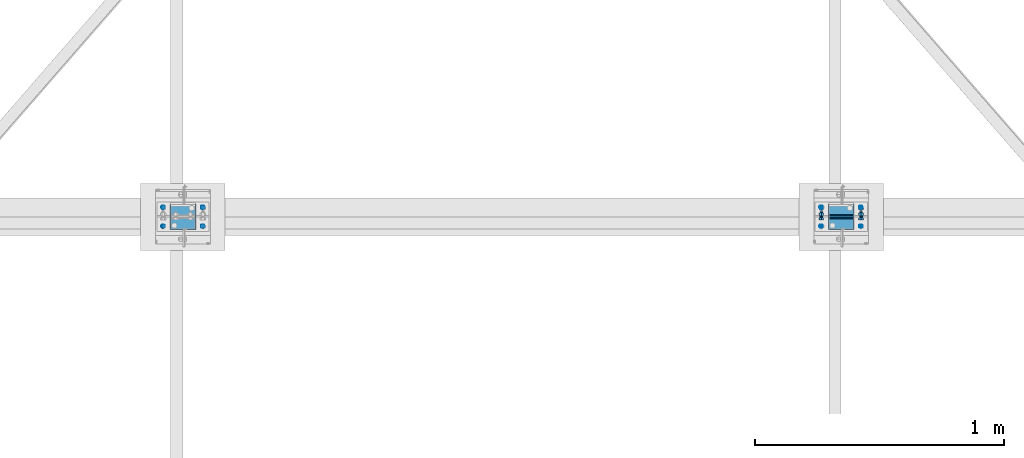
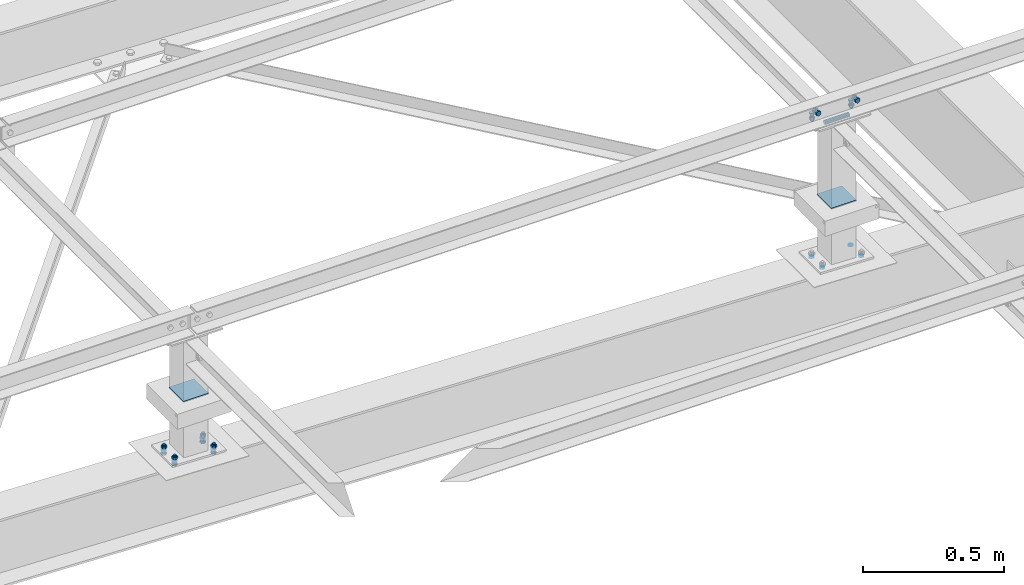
# One storey, part 85 of 3134: 8 mechanical fasteners, 5 elements without a shape of their own.
"""IFC2X3 building model written with IfcOpenShell, lengths in millimetres."""

import ifcopenshell
import ifcopenshell.guid

model = None  # the IFC model being written
_history = None  # IfcOwnerHistory: only IFC2X3 demands one
_inside = {}  # id of a spatial element -> (the spatial element, [elements in it])
_under = {}  # id of a project, library or spatial element -> (it, [spatial elements below it])
_declared = {}  # id of a project -> (the project, [libraries it declares])
_typed = {}  # id of a type object -> (the type object, [elements of that type])
_made_of = {}  # id of a material, layer set ... -> (it, [elements and type objects made of it])


def new_model(schema):
    """Start an empty IFC model of exactly this schema.

    Asked for "IFC4X3", IfcOpenShell would pick the latest addendum, in which some entities
    have other attributes; the version numbers below select the first issue.
    IFC2X3 requires an IfcOwnerHistory on every rooted entity: one is made here for all.
    """
    global model, _history
    if schema == "IFC4X3":
        model = ifcopenshell.file(schema_version=(4, 3, 0, 0))
    else:
        model = ifcopenshell.file(schema=schema)
    _inside.clear()
    _under.clear()
    _declared.clear()
    _typed.clear()
    _made_of.clear()
    _history = None
    if model.schema == "IFC2X3":
        org = make("IfcOrganization", Name="unknown")
        user = make(
            "IfcPersonAndOrganization",
            ThePerson=make("IfcPerson", FamilyName="unknown"),
            TheOrganization=org,
        )
        app = make(
            "IfcApplication",
            ApplicationDeveloper=org,
            Version="unknown",
            ApplicationFullName="unknown",
            ApplicationIdentifier="unknown",
        )
        _history = make(
            "IfcOwnerHistory",
            OwningUser=user,
            OwningApplication=app,
            ChangeAction="ADDED",
            CreationDate=0,
        )
    return model


def make(cls, **values):
    """One entity of the class cls with the attributes given. An attribute that is None is left unset."""
    return model.create_entity(
        cls, **{name: value for name, value in values.items() if value is not None}
    )


def rooted(cls, **values):
    """An entity with a GlobalId (a new one), such as an element, a storey or a relation."""
    return make(cls, GlobalId=ifcopenshell.guid.new(), OwnerHistory=_history, **values)


def si_unit(unit_type, name, prefix=None):
    """IfcSIUnit, for example si_unit("LENGTHUNIT", "METRE", prefix="MILLI")."""
    return make("IfcSIUnit", UnitType=unit_type, Prefix=prefix, Name=name)


def assignment(units):
    """IfcUnitAssignment: the units of a project."""
    return None if units is None else make("IfcUnitAssignment", Units=units)


def point(xyz):
    """IfcCartesianPoint."""
    return None if xyz is None else make("IfcCartesianPoint", Coordinates=xyz)


def direction(xyz):
    """IfcDirection."""
    return None if xyz is None else make("IfcDirection", DirectionRatios=xyz)


def frame(location, z_axis=None, x_axis=None):
    """IfcAxis2Placement3D, a coordinate frame: its origin and axes. An axis left out is left unset."""
    return make(
        "IfcAxis2Placement3D",
        Location=point(location),
        Axis=direction(z_axis),
        RefDirection=direction(x_axis),
    )


def origin_with_axes():
    """The frame at (0, 0, 0) with the z axis (0, 0, 1) and the x axis (1, 0, 0) written out."""
    return frame((0.0, 0.0, 0.0), z_axis=(0.0, 0.0, 1.0), x_axis=(1.0, 0.0, 0.0))


def place(relative_to, where):
    """IfcLocalPlacement: puts the frame where relative to a parent placement (None: the world)."""
    return make(
        "IfcLocalPlacement", PlacementRelTo=relative_to, RelativePlacement=where
    )


def context(
    kind, dimensions, precision=None, world=None, true_north=None, identifier=None
):
    """IfcGeometricRepresentationContext, for example the 3D "Model" context."""
    return make(
        "IfcGeometricRepresentationContext",
        ContextIdentifier=identifier,
        ContextType=kind,
        CoordinateSpaceDimension=dimensions,
        Precision=precision,
        WorldCoordinateSystem=world,
        TrueNorth=true_north,
    )


def subcontext(parent, identifier, kind, view, scale=None):
    """IfcGeometricRepresentationSubContext, for example "Body" below "Model"."""
    return make(
        "IfcGeometricRepresentationSubContext",
        ContextIdentifier=identifier,
        ContextType=kind,
        ParentContext=parent,
        TargetScale=scale,
        TargetView=view,
    )


def project(units=None, contexts=None):
    """IfcProject with its units and contexts."""
    return rooted(
        "IfcProject",
        Name="project",
        RepresentationContexts=contexts,
        UnitsInContext=assignment(units),
    )


def spatial(cls, under=None, at=None, **own):
    """A site, building, storey or space (cls), placed at a placement, below another one or the project."""
    s = rooted(cls, ObjectPlacement=at, **own)
    if under is not None:
        _under.setdefault(under.id(), (under, []))[1].append(s)
    return s


def faces_of(points, faces, orient=None, outer=None):
    """IfcFace entities. A face is a list of loops; a loop is a list of indices into points, from 0.

    orient and outer hold one flag for each loop. By default every Orientation is true, the
    first loop of a face is its IfcFaceOuterBound and the others are IfcFaceBound.
    """
    made = []
    for i, loops in enumerate(faces):
        bounds = []
        for j, loop in enumerate(loops):
            is_outer = j == 0 if outer is None else outer[i][j]
            bounds.append(
                make(
                    "IfcFaceOuterBound" if is_outer else "IfcFaceBound",
                    Bound=make("IfcPolyLoop", Polygon=[points[k] for k in loop]),
                    Orientation=True if orient is None else orient[i][j],
                )
            )
        made.append(make("IfcFace", Bounds=bounds))
    return made


def faceted_brep(points, faces, orient=None, outer=None, voids=None):
    """IfcFacetedBrep: a solid bounded by flat faces; with voids (closed shells), ...WithVoids."""
    shared = [point(p) for p in points]
    hull = make("IfcClosedShell", CfsFaces=faces_of(shared, faces, orient, outer))
    if voids is None:
        return make("IfcFacetedBrep", Outer=hull)
    return make(
        "IfcFacetedBrepWithVoids",
        Outer=hull,
        Voids=[
            make(cls, CfsFaces=faces_of(shared, fs, o, b)) for cls, fs, o, b in voids
        ],
    )


def shape(context_of_items, identifier, shape_type, items):
    """IfcShapeRepresentation: the items that make up one representation, for example the "Body"."""
    return make(
        "IfcShapeRepresentation",
        ContextOfItems=context_of_items,
        RepresentationIdentifier=identifier,
        RepresentationType=shape_type,
        Items=items,
    )


def source(mapping_origin, context_of_items, identifier, shape_type, items):
    """IfcRepresentationMap: a shape defined once, which mapped items show again and again."""
    return make(
        "IfcRepresentationMap",
        MappingOrigin=mapping_origin,
        MappedRepresentation=shape(context_of_items, identifier, shape_type, items),
    )


def transform(
    local_origin,
    x_axis=None,
    y_axis=None,
    z_axis=None,
    scale=None,
    scale2=None,
    scale3=None,
    uniform=True,
):
    """IfcCartesianTransformationOperator3D, or its non-uniform kind. x_axis, y_axis, z_axis: its Axis1, 2, 3."""
    if uniform:
        return make(
            "IfcCartesianTransformationOperator3D",
            Axis1=direction(x_axis),
            Axis2=direction(y_axis),
            LocalOrigin=point(local_origin),
            Scale=scale,
            Axis3=direction(z_axis),
        )
    return make(
        "IfcCartesianTransformationOperator3DnonUniform",
        Axis1=direction(x_axis),
        Axis2=direction(y_axis),
        LocalOrigin=point(local_origin),
        Scale=scale,
        Axis3=direction(z_axis),
        Scale2=scale2,
        Scale3=scale3,
    )


def mapped(mapping_source, mapping_target):
    """IfcMappedItem: shows the shape of a source again, moved by a transform."""
    return make(
        "IfcMappedItem", MappingSource=mapping_source, MappingTarget=mapping_target
    )


def material(Name=None, Category=None):
    """IfcMaterial."""
    return make("IfcMaterial", Name=Name, Category=Category)


def made_of(thing, what):
    """Note that an element or type object is made of a material, layer set ...; save() writes the relation."""
    if what is not None:
        _made_of.setdefault(what.id(), (what, []))[1].append(thing)
    return thing


def type_object(cls, material=None, **own):
    """A type object (cls), such as IfcWallType, which elements share."""
    return made_of(rooted(cls, **own), material)


def element(
    cls,
    number,
    at=None,
    inside=None,
    cuts=None,
    type_object=None,
    material=None,
    context=None,
    identifier="Body",
    shape_type=None,
    held_by="IfcProductDefinitionShape",
    body=None,
    shapes=None,
    **own,
):
    """One element of the class cls, such as IfcWall. Its Tag is "e" and its number.

    at: its placement. inside: the storey or other place that contains it. cuts: it is an
    opening in that element (IfcRelVoidsElement). A single representation is given by context,
    identifier, shape_type and body (its items); several are given by shapes. held_by: the class
    of the entity that holds the representations. save() writes the other relations.
    """
    e = rooted(cls, Tag="e%d" % number, ObjectPlacement=at, **own)
    if body is not None:
        shapes = [shape(context, identifier, shape_type, body)]
    if shapes is not None:
        e.Representation = make(held_by, Representations=shapes)
    if inside is not None:
        _inside.setdefault(inside.id(), (inside, []))[1].append(e)
    if cuts is not None:
        rooted(
            "IfcRelVoidsElement", RelatingBuildingElement=cuts, RelatedOpeningElement=e
        )
    if type_object is not None:
        _typed.setdefault(type_object.id(), (type_object, []))[1].append(e)
    return made_of(e, material)


def aggregate(whole, parts):
    """IfcRelAggregates: a whole, such as a stair, and the parts it consists of."""
    return rooted("IfcRelAggregates", RelatingObject=whole, RelatedObjects=parts)


def save(model, path):
    """Write the relations noted so far, then the file.

    IfcRelAggregates (storeys below a building ...), IfcRelContainedInSpatialStructure (elements
    in a storey), IfcRelDefinesByType, IfcRelAssociatesMaterial and IfcRelDeclares: one each for
    every whole, place, type object, material and project.
    """
    for whole, parts in _under.values():
        aggregate(whole, parts)
    for where, things in _inside.values():
        rooted(
            "IfcRelContainedInSpatialStructure",
            RelatedElements=things,
            RelatingStructure=where,
        )
    for kind, things in _typed.values():
        rooted("IfcRelDefinesByType", RelatedObjects=things, RelatingType=kind)
    for what, things in _made_of.values():
        rooted("IfcRelAssociatesMaterial", RelatedObjects=things, RelatingMaterial=what)
    for by, libraries in _declared.values():
        rooted("IfcRelDeclares", RelatingContext=by, RelatedDefinitions=libraries)
    model.write(path)


model = new_model("IFC2X3")

# Units and contexts
model_context = context("Model", 3, precision=1e-05, world=origin_with_axes())
body_context = subcontext(model_context, "Body", "Model", "MODEL_VIEW")
ifc_project = project(units=[si_unit("LENGTHUNIT", "METRE", prefix="MILLI"), si_unit("AREAUNIT", "SQUARE_METRE"), si_unit("VOLUMEUNIT", "CUBIC_METRE"), si_unit("MASSUNIT", "GRAM", prefix="KILO"), si_unit("TIMEUNIT", "SECOND"), si_unit("PLANEANGLEUNIT", "RADIAN"), si_unit("SOLIDANGLEUNIT", "STERADIAN"), si_unit("THERMODYNAMICTEMPERATUREUNIT", "DEGREE_CELSIUS"), si_unit("LUMINOUSINTENSITYUNIT", "LUMEN")], contexts=[model_context])

# Site, building, storey
site_placement = place(None, origin_with_axes())
site = spatial("IfcSite", under=ifc_project, at=site_placement, CompositionType="ELEMENT")
building_placement = place(site_placement, origin_with_axes())
building = spatial("IfcBuilding", under=site, at=building_placement, Name="Undefined", CompositionType="ELEMENT")
storey_placement = place(building_placement, origin_with_axes())
storey = spatial("IfcBuildingStorey", under=building, at=storey_placement, Name="Undefined", CompositionType="ELEMENT", Elevation=0.0)

# Assembly, mechanical fastener
assembly_1_placement = place(storey_placement, origin_with_axes())
assembly_1 = element("IfcElementAssembly", 1, at=assembly_1_placement, inside=storey, AssemblyPlace="NOTDEFINED", PredefinedType="RIGID_FRAME")
ifc_material_1 = material(Name="8.8")
mechanical_fastener_type = type_object("IfcMechanicalFastenerType", Name="Bolt assembly")
shared_shape_1 = source(origin_with_axes(), body_context, "Body", "Brep", [
    faceted_brep([(10.9696551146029, -14.0, 0.0), (5.48482755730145, -14.0, 9.5), (-5.48482755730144, -14.0, 9.5), (-10.9696551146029, -14.0, 1.34339530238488e-15), (-5.48482755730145, -14.0, -9.5), (5.48482755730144, -14.0, -9.50000000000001), (5.48482755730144, -6.0, -9.50000000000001), (-5.48482755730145, -6.0, -9.5), (-10.9696551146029, -6.0, 1.34339530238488e-15), (-5.48482755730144, -6.0, 9.5), (5.48482755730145, -6.0, 9.5), (10.9696551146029, -6.0, 0.0), (6.0, -6.0, 0.0), (5.19615242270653, -6.0, 3.00000000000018), (2.99999999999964, -6.0, 5.19615242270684), (-6.21801588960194e-13, -6.0, 6.0), (-3.00000000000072, -6.0, 5.19615242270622), (-5.19615242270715, -6.0, 2.9999999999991), (-6.0, -6.0, -1.24360317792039e-12), (-5.19615242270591, -6.0, -3.00000000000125), (-2.99999999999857, -6.0, -5.19615242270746), (1.85874342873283e-12, -6.0, -6.0), (3.00000000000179, -6.0, -5.1961524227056), (5.19615242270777, -6.0, -2.99999999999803), (5.19615242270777, 24.0, -2.99999999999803), (3.00000000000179, 24.0, -5.1961524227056), (1.85874342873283e-12, 24.0, -6.0), (-2.99999999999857, 24.0, -5.19615242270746), (-5.19615242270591, 24.0, -3.00000000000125), (-6.0, 24.0, -1.24360317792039e-12), (-5.19615242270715, 24.0, 2.9999999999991), (-3.00000000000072, 24.0, 5.19615242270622), (-6.21801588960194e-13, 24.0, 6.0), (2.99999999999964, 24.0, 5.19615242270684), (5.19615242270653, 24.0, 3.00000000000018), (6.0, 24.0, 0.0), (10.9696551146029, 6.00000000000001, 0.0), (5.48482755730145, 6.00000000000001, 9.5), (-5.48482755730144, 6.00000000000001, 9.5), (-10.9696551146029, 6.00000000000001, 1.34339530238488e-15), (-5.48482755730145, 6.00000000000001, -9.5), (5.48482755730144, 6.00000000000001, -9.50000000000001), (5.48482755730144, 16.0, -9.50000000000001), (-5.48482755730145, 16.0, -9.5), (-10.9696551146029, 16.0, 1.34339530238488e-15), (-5.48482755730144, 16.0, 9.5), (5.48482755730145, 16.0, 9.5), (10.9696551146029, 16.0, 0.0)], [[[0, 1, 2, 3, 4, 5]], [[6, 7, 8, 9, 10, 11]], [[0, 11, 10, 1]], [[1, 10, 9, 2]], [[2, 9, 8, 3]], [[3, 8, 7, 4]], [[4, 7, 6, 5]], [[5, 6, 11, 0]], [[12, 13, 14, 15, 16, 17, 18, 19, 20, 21, 22, 23]], [[24, 25, 26, 27, 28, 29, 30, 31, 32, 33, 34, 35]], [[12, 35, 34, 13]], [[13, 34, 33, 14]], [[14, 33, 32, 15]], [[15, 32, 31, 16]], [[16, 31, 30, 17]], [[17, 30, 29, 18]], [[18, 29, 28, 19]], [[19, 28, 27, 20]], [[20, 27, 26, 21]], [[21, 26, 25, 22]], [[22, 25, 24, 23]], [[23, 24, 35, 12]], [[36, 37, 38, 39, 40, 41]], [[42, 43, 44, 45, 46, 47]], [[36, 47, 46, 37]], [[37, 46, 45, 38]], [[38, 45, 44, 39]], [[39, 44, 43, 40]], [[40, 43, 42, 41]], [[41, 42, 47, 36]]]),
    faceted_brep([(7.0, -0.1, 0.0), (6.06217782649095, -0.1, 3.50000000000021), (3.49999999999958, -0.1, 6.06217782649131), (-7.25435187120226e-13, -0.1, 7.0), (-3.50000000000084, -0.1, 6.06217782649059), (-6.06217782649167, -0.1, 3.49999999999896), (-7.0, -0.1, -1.45087037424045e-12), (-6.06217782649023, -0.1, -3.50000000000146), (-3.49999999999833, -0.1, -6.06217782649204), (2.1685340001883e-12, -0.1, -7.0), (3.50000000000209, -0.1, -6.06217782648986), (6.0621778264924, -0.1, -3.4999999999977), (6.0621778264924, 6.00000000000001, -3.4999999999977), (3.50000000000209, 6.00000000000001, -6.06217782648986), (2.1685340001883e-12, 6.00000000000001, -7.0), (-3.49999999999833, 6.00000000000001, -6.06217782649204), (-6.06217782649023, 6.00000000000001, -3.50000000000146), (-7.0, 6.00000000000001, -1.45087037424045e-12), (-6.06217782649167, 6.00000000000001, 3.49999999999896), (-3.50000000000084, 6.00000000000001, 6.06217782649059), (-7.25435187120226e-13, 6.00000000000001, 7.0), (3.49999999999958, 6.00000000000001, 6.06217782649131), (6.06217782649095, 6.00000000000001, 3.50000000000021), (7.0, 6.00000000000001, 0.0), (7.0, -5.9, 0.0), (6.06217782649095, -5.9, 3.50000000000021), (3.49999999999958, -5.9, 6.06217782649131), (-7.25435187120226e-13, -5.9, 7.0), (-3.50000000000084, -5.9, 6.06217782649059), (-6.06217782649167, -5.9, 3.49999999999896), (-7.0, -5.9, -1.45087037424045e-12), (-6.06217782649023, -5.9, -3.50000000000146), (-3.49999999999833, -5.9, -6.06217782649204), (2.1685340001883e-12, -5.9, -7.0), (3.50000000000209, -5.9, -6.06217782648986), (6.0621778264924, -5.9, -3.4999999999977), (6.0621778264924, 0.0999999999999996, -3.4999999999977), (3.50000000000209, 0.0999999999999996, -6.06217782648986), (2.1685340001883e-12, 0.0999999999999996, -7.0), (-3.49999999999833, 0.0999999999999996, -6.06217782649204), (-6.06217782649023, 0.0999999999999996, -3.50000000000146), (-7.0, 0.0999999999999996, -1.45087037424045e-12), (-6.06217782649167, 0.0999999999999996, 3.49999999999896), (-3.50000000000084, 0.0999999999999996, 6.06217782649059), (-7.25435187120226e-13, 0.0999999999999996, 7.0), (3.49999999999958, 0.0999999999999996, 6.06217782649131), (6.06217782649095, 0.0999999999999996, 3.50000000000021), (7.0, 0.0999999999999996, 0.0)], [[[0, 1, 2, 3, 4, 5, 6, 7, 8, 9, 10, 11]], [[12, 13, 14, 15, 16, 17, 18, 19, 20, 21, 22, 23]], [[0, 23, 22, 1]], [[1, 22, 21, 2]], [[2, 21, 20, 3]], [[3, 20, 19, 4]], [[4, 19, 18, 5]], [[5, 18, 17, 6]], [[6, 17, 16, 7]], [[7, 16, 15, 8]], [[8, 15, 14, 9]], [[9, 14, 13, 10]], [[10, 13, 12, 11]], [[11, 12, 23, 0]], [[24, 25, 26, 27, 28, 29, 30, 31, 32, 33, 34, 35]], [[36, 37, 38, 39, 40, 41, 42, 43, 44, 45, 46, 47]], [[24, 47, 46, 25]], [[25, 46, 45, 26]], [[26, 45, 44, 27]], [[27, 44, 43, 28]], [[28, 43, 42, 29]], [[29, 42, 41, 30]], [[30, 41, 40, 31]], [[31, 40, 39, 32]], [[32, 39, 38, 33]], [[33, 38, 37, 34]], [[34, 37, 36, 35]], [[35, 36, 47, 24]]]),
])
mechanical_fastener_1_placement = place(assembly_1_placement, frame((8340.0, 29610.0, 4365.0), z_axis=(1.0, 0.0, 0.0), x_axis=(0.0, -1.0, 0.0)))
mechanical_fastener_1 = element("IfcMechanicalFastener", 2, at=mechanical_fastener_1_placement, type_object=mechanical_fastener_type, material=ifc_material_1, Name="Bolt assembly", NominalDiameter=12.0, NominalLength=30.0, context=body_context, shape_type="MappedRepresentation", body=[
    mapped(shared_shape_1, transform((0.0, -5.32963895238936e-10, -79.9999999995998))),
    mapped(shared_shape_1, transform((0.0, 5.3114490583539e-10, 79.9999999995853))),
])

assembly_2_placement = place(storey_placement, origin_with_axes())
assembly_2 = element("IfcElementAssembly", 3, at=assembly_2_placement, inside=storey, AssemblyPlace="NOTDEFINED", PredefinedType="RIGID_FRAME")
shared_shape_2 = source(origin_with_axes(), body_context, "Body", "Brep", [
    faceted_brep([(10.9696551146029, -4.18280906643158, 0.0), (5.48482755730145, -4.18280906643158, 9.5), (-5.48482755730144, -4.18280906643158, 9.5), (-10.9696551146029, -4.18280906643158, 1.34339530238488e-15), (-5.48482755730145, -4.18280906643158, -9.5), (5.48482755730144, -4.18280906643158, -9.50000000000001), (5.48482755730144, 3.81719093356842, -9.50000000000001), (-5.48482755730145, 3.81719093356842, -9.5), (-10.9696551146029, 3.81719093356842, 1.34339530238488e-15), (-5.48482755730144, 3.81719093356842, 9.5), (5.48482755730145, 3.81719093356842, 9.5), (10.9696551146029, 3.81719093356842, 0.0), (6.0, 3.81719093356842, 0.0), (5.19615242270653, 3.81719093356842, 3.00000000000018), (2.99999999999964, 3.81719093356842, 5.19615242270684), (-6.21801588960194e-13, 3.81719093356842, 6.0), (-3.00000000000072, 3.81719093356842, 5.19615242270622), (-5.19615242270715, 3.81719093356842, 2.9999999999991), (-6.0, 3.81719093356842, -1.24360317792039e-12), (-5.19615242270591, 3.81719093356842, -3.00000000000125), (-2.99999999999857, 3.81719093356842, -5.19615242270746), (1.85874342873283e-12, 3.81719093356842, -6.0), (3.00000000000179, 3.81719093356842, -5.1961524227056), (5.19615242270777, 3.81719093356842, -2.99999999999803), (5.19615242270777, 38.8171909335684, -2.99999999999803), (3.00000000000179, 38.8171909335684, -5.1961524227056), (1.85874342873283e-12, 38.8171909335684, -6.0), (-2.99999999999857, 38.8171909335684, -5.19615242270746), (-5.19615242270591, 38.8171909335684, -3.00000000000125), (-6.0, 38.8171909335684, -1.24360317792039e-12), (-5.19615242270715, 38.8171909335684, 2.9999999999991), (-3.00000000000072, 38.8171909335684, 5.19615242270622), (-6.21801588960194e-13, 38.8171909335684, 6.0), (2.99999999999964, 38.8171909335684, 5.19615242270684), (5.19615242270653, 38.8171909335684, 3.00000000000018), (6.0, 38.8171909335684, 0.0), (10.9696551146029, 23.0139082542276, 0.0), (5.48482755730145, 23.0139082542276, 9.5), (-5.48482755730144, 23.0139082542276, 9.5), (-10.9696551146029, 23.0139082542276, 1.34339530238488e-15), (-5.48482755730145, 23.0139082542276, -9.5), (5.48482755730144, 23.0139082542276, -9.50000000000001), (5.48482755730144, 33.0139082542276, -9.50000000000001), (-5.48482755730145, 33.0139082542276, -9.5), (-10.9696551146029, 33.0139082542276, 1.34339530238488e-15), (-5.48482755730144, 33.0139082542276, 9.5), (5.48482755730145, 33.0139082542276, 9.5), (10.9696551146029, 33.0139082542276, 0.0)], [[[0, 1, 2, 3, 4, 5]], [[6, 7, 8, 9, 10, 11]], [[0, 11, 10, 1]], [[1, 10, 9, 2]], [[2, 9, 8, 3]], [[3, 8, 7, 4]], [[4, 7, 6, 5]], [[5, 6, 11, 0]], [[12, 13, 14, 15, 16, 17, 18, 19, 20, 21, 22, 23]], [[24, 25, 26, 27, 28, 29, 30, 31, 32, 33, 34, 35]], [[12, 35, 34, 13]], [[13, 34, 33, 14]], [[14, 33, 32, 15]], [[15, 32, 31, 16]], [[16, 31, 30, 17]], [[17, 30, 29, 18]], [[18, 29, 28, 19]], [[19, 28, 27, 20]], [[20, 27, 26, 21]], [[21, 26, 25, 22]], [[22, 25, 24, 23]], [[23, 24, 35, 12]], [[36, 37, 38, 39, 40, 41]], [[42, 43, 44, 45, 46, 47]], [[36, 47, 46, 37]], [[37, 46, 45, 38]], [[38, 45, 44, 39]], [[39, 44, 43, 40]], [[40, 43, 42, 41]], [[41, 42, 47, 36]]]),
    faceted_brep([(7.0, 3.91719093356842, 0.0), (6.06217782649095, 3.91719093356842, 3.50000000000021), (3.49999999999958, 3.91719093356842, 6.06217782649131), (-7.25435187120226e-13, 3.91719093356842, 7.0), (-3.50000000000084, 3.91719093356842, 6.06217782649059), (-6.06217782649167, 3.91719093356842, 3.49999999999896), (-7.0, 3.91719093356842, -1.45087037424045e-12), (-6.06217782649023, 3.91719093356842, -3.50000000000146), (-3.49999999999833, 3.91719093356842, -6.06217782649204), (2.1685340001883e-12, 3.91719093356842, -7.0), (3.50000000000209, 3.91719093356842, -6.06217782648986), (6.0621778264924, 3.91719093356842, -3.4999999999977), (6.0621778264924, 13.1171907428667, -3.4999999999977), (3.50000000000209, 13.1171907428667, -6.06217782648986), (2.1685340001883e-12, 13.1171907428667, -7.0), (-3.49999999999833, 13.1171907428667, -6.06217782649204), (-6.06217782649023, 13.1171907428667, -3.50000000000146), (-7.0, 13.1171907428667, -1.45087037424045e-12), (-6.06217782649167, 13.1171907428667, 3.49999999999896), (-3.50000000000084, 13.1171907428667, 6.06217782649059), (-7.25435187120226e-13, 13.1171907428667, 7.0), (3.49999999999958, 13.1171907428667, 6.06217782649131), (6.06217782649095, 13.1171907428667, 3.50000000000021), (7.0, 13.1171907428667, 0.0), (7.0, 14.9139082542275, 0.0), (6.06217782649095, 14.9139082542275, 3.50000000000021), (3.49999999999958, 14.9139082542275, 6.06217782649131), (-7.25435187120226e-13, 14.9139082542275, 7.0), (-3.50000000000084, 14.9139082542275, 6.06217782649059), (-6.06217782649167, 14.9139082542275, 3.49999999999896), (-7.0, 14.9139082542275, -1.45087037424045e-12), (-6.06217782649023, 14.9139082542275, -3.50000000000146), (-3.49999999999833, 14.9139082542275, -6.06217782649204), (2.1685340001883e-12, 14.9139082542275, -7.0), (3.50000000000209, 14.9139082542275, -6.06217782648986), (6.0621778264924, 14.9139082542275, -3.4999999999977), (6.0621778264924, 23.0139082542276, -3.4999999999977), (3.50000000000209, 23.0139082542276, -6.06217782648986), (2.1685340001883e-12, 23.0139082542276, -7.0), (-3.49999999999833, 23.0139082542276, -6.06217782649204), (-6.06217782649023, 23.0139082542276, -3.50000000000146), (-7.0, 23.0139082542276, -1.45087037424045e-12), (-6.06217782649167, 23.0139082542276, 3.49999999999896), (-3.50000000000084, 23.0139082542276, 6.06217782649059), (-7.25435187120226e-13, 23.0139082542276, 7.0), (3.49999999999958, 23.0139082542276, 6.06217782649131), (6.06217782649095, 23.0139082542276, 3.50000000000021), (7.0, 23.0139082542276, 0.0)], [[[0, 1, 2, 3, 4, 5, 6, 7, 8, 9, 10, 11]], [[12, 13, 14, 15, 16, 17, 18, 19, 20, 21, 22, 23]], [[0, 23, 22, 1]], [[1, 22, 21, 2]], [[2, 21, 20, 3]], [[3, 20, 19, 4]], [[4, 19, 18, 5]], [[5, 18, 17, 6]], [[6, 17, 16, 7]], [[7, 16, 15, 8]], [[8, 15, 14, 9]], [[9, 14, 13, 10]], [[10, 13, 12, 11]], [[11, 12, 23, 0]], [[24, 25, 26, 27, 28, 29, 30, 31, 32, 33, 34, 35]], [[36, 37, 38, 39, 40, 41, 42, 43, 44, 45, 46, 47]], [[24, 47, 46, 25]], [[25, 46, 45, 26]], [[26, 45, 44, 27]], [[27, 44, 43, 28]], [[28, 43, 42, 29]], [[29, 42, 41, 30]], [[30, 41, 40, 31]], [[31, 40, 39, 32]], [[32, 39, 38, 33]], [[33, 38, 37, 34]], [[34, 37, 36, 35]], [[35, 36, 47, 24]]]),
])
mechanical_fastener_2_placement = place(assembly_2_placement, frame((5690.86474073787, 29612.9999999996, 3827.79222028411), z_axis=(-0.999387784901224, 0.0, 0.0349865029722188), x_axis=(0.0, -1.0, 0.0)))
mechanical_fastener_2 = element("IfcMechanicalFastener", 4, at=mechanical_fastener_2_placement, type_object=mechanical_fastener_type, material=ifc_material_1, Name="Bolt assembly", NominalDiameter=12.0, NominalLength=35.0, context=body_context, shape_type="MappedRepresentation", body=[
    mapped(shared_shape_2, transform((0.0, -5.32963895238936e-10, -79.9999999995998))),
    mapped(shared_shape_2, transform((76.0, -5.32963895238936e-10, -79.9999999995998))),
    mapped(shared_shape_2, transform((0.0, 5.3114490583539e-10, 79.9999999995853))),
    mapped(shared_shape_2, transform((76.0, 5.3114490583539e-10, 79.9999999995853))),
])

assembly_3_placement = place(storey_placement, origin_with_axes())
assembly_3 = element("IfcElementAssembly", 5, at=assembly_3_placement, inside=storey, AssemblyPlace="NOTDEFINED", PredefinedType="RIGID_FRAME")
shared_shape_3 = source(origin_with_axes(), body_context, "Body", "Brep", [
    faceted_brep([(7.0, 13.0000253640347, 0.0), (6.06217782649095, 13.0000253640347, 3.50000000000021), (3.49999999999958, 13.0000253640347, 6.06217782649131), (-7.25435187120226e-13, 13.0000253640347, 7.0), (-3.50000000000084, 13.0000253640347, 6.06217782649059), (-6.06217782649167, 13.0000253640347, 3.49999999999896), (-7.0, 13.0000253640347, -1.45087037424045e-12), (-6.06217782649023, 13.0000253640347, -3.50000000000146), (-3.49999999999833, 13.0000253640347, -6.06217782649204), (2.1685340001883e-12, 13.0000253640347, -7.0), (3.50000000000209, 13.0000253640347, -6.06217782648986), (6.0621778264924, 13.0000253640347, -3.4999999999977), (6.0621778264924, 15.0999999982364, -3.4999999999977), (3.50000000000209, 15.0999999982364, -6.06217782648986), (2.1685340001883e-12, 15.0999999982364, -7.0), (-3.49999999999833, 15.0999999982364, -6.06217782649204), (-6.06217782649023, 15.0999999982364, -3.50000000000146), (-7.0, 15.0999999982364, -1.45087037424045e-12), (-6.06217782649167, 15.0999999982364, 3.49999999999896), (-3.50000000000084, 15.0999999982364, 6.06217782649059), (-7.25435187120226e-13, 15.0999999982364, 7.0), (3.49999999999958, 15.0999999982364, 6.06217782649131), (6.06217782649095, 15.0999999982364, 3.50000000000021), (7.0, 15.0999999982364, 0.0)], [[[0, 1, 2, 3, 4, 5, 6, 7, 8, 9, 10, 11]], [[12, 13, 14, 15, 16, 17, 18, 19, 20, 21, 22, 23]], [[0, 23, 22, 1]], [[1, 22, 21, 2]], [[2, 21, 20, 3]], [[3, 20, 19, 4]], [[4, 19, 18, 5]], [[5, 18, 17, 6]], [[6, 17, 16, 7]], [[7, 16, 15, 8]], [[8, 15, 14, 9]], [[9, 14, 13, 10]], [[10, 13, 12, 11]], [[11, 12, 23, 0]]]),
])
mechanical_fastener_3_placement = place(assembly_3_placement, frame((8339.1931765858, 29612.9999999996, 3735.10000668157), z_axis=(-0.999387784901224, 0.0, 0.0349865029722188), x_axis=(0.0, -1.0, 0.0)))
mechanical_fastener_3 = element("IfcMechanicalFastener", 6, at=mechanical_fastener_3_placement, type_object=mechanical_fastener_type, material=ifc_material_1, Name="Bolt assembly", NominalDiameter=12.0, NominalLength=2.0, context=body_context, shape_type="MappedRepresentation", body=[
    mapped(shared_shape_3, transform((0.0, -5.32963895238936e-10, -79.9999999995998))),
    mapped(shared_shape_3, transform((76.0, -5.32963895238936e-10, -79.9999999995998))),
    mapped(shared_shape_3, transform((0.0, 5.3114490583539e-10, 79.9999999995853))),
    mapped(shared_shape_3, transform((76.0, 5.3114490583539e-10, 79.9999999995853))),
])
aggregate(assembly_3, [mechanical_fastener_3])

assembly_4_placement = place(storey_placement, origin_with_axes())
assembly_4 = element("IfcElementAssembly", 7, at=assembly_4_placement, inside=storey, AssemblyPlace="NOTDEFINED", PredefinedType="RIGID_FRAME")
mechanical_fastener_4_placement = place(assembly_4_placement, frame((5690.86474073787, 29612.9999999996, 3827.79222028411), z_axis=(-0.999387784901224, 0.0, 0.0349865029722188), x_axis=(0.0, -1.0, 0.0)))
mechanical_fastener_4 = element("IfcMechanicalFastener", 8, at=mechanical_fastener_4_placement, type_object=mechanical_fastener_type, material=ifc_material_1, Name="Bolt assembly", NominalDiameter=12.0, NominalLength=2.0, context=body_context, shape_type="MappedRepresentation", body=[
    mapped(shared_shape_3, transform((0.0, -5.32963895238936e-10, -79.9999999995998))),
    mapped(shared_shape_3, transform((76.0, -5.32963895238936e-10, -79.9999999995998))),
    mapped(shared_shape_3, transform((0.0, 5.3114490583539e-10, 79.9999999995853))),
    mapped(shared_shape_3, transform((76.0, 5.3114490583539e-10, 79.9999999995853))),
])
aggregate(assembly_4, [mechanical_fastener_4])

# Assembly, mechanical fasteners
assembly_5_placement = place(storey_placement, origin_with_axes())
assembly_5 = element("IfcElementAssembly", 9, at=assembly_5_placement, inside=storey, AssemblyPlace="NOTDEFINED", PredefinedType="RIGID_FRAME")
shared_shape_4 = source(origin_with_axes(), body_context, "Body", "Brep", [
    faceted_brep([(9.0, -50.0, 0.0), (7.79422863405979, -50.0, 4.50000000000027), (4.49999999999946, -50.0, 7.79422863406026), (-9.3270238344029e-13, -50.0, 9.0), (-4.50000000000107, -50.0, 7.79422863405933), (-7.79422863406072, -50.0, 4.49999999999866), (-9.0, -50.0, -1.86540476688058e-12), (-7.79422863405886, -50.0, -4.50000000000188), (-4.49999999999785, -50.0, -7.79422863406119), (2.78811514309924e-12, -50.0, -9.0), (4.50000000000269, -50.0, -7.7942286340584), (7.79422863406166, -50.0, -4.49999999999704), (7.79422863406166, 50.1, -4.49999999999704), (4.50000000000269, 50.1, -7.7942286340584), (2.78811514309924e-12, 50.1, -9.0), (-4.49999999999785, 50.1, -7.79422863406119), (-7.79422863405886, 50.1, -4.50000000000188), (-9.0, 50.1, -1.86540476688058e-12), (-7.79422863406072, 50.1, 4.49999999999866), (-4.50000000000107, 50.1, 7.79422863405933), (-9.3270238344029e-13, 50.1, 9.0), (4.49999999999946, 50.1, 7.79422863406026), (7.79422863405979, 50.1, 4.50000000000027), (9.0, 50.1, 0.0)], [[[0, 1, 2, 3, 4, 5, 6, 7, 8, 9, 10, 11]], [[12, 13, 14, 15, 16, 17, 18, 19, 20, 21, 22, 23]], [[0, 23, 22, 1]], [[1, 22, 21, 2]], [[2, 21, 20, 3]], [[3, 20, 19, 4]], [[4, 19, 18, 5]], [[5, 18, 17, 6]], [[6, 17, 16, 7]], [[7, 16, 15, 8]], [[8, 15, 14, 9]], [[9, 14, 13, 10]], [[10, 13, 12, 11]], [[11, 12, 23, 0]]]),
])
mechanical_fastener_5_placement = place(assembly_5_placement, frame((8340.0, 29575.0, 4345.0), z_axis=(0.0, 1.0, 0.0), x_axis=(0.0, 0.0, 1.0)))
mechanical_fastener_5 = element("IfcMechanicalFastener", 10, at=mechanical_fastener_5_placement, type_object=mechanical_fastener_type, material=ifc_material_1, Name="Bolt assembly", NominalDiameter=16.0, NominalLength=100.0, context=body_context, shape_type="MappedRepresentation", body=[
    mapped(shared_shape_4, transform((0.0, 0.0, 0.0))),
])
ifc_material_2 = material(Name="6.8")
shared_shape_5 = source(origin_with_axes(), body_context, "Body", "Brep", [
    faceted_brep([(51.5, 1.36424205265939e-12, 50.0), (51.3858192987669, 1.36424205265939e-12, 50.5740251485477), (51.0606601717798, 1.36424205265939e-12, 51.0606601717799), (50.5740251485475, 1.36424205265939e-12, 51.385819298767), (-50.0000000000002, 1.36424205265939e-12, 51.5), (-50.7500000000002, 1.36424205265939e-12, 51.2990381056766), (-51.2990381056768, 1.36424205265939e-12, 50.7499999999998), (-51.5, 1.36424205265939e-12, 49.9999999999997), (-51.5, 1.36424205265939e-12, -50.0000000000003), (-51.2990381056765, 1.36424205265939e-12, -50.7500000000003), (-50.7499999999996, 1.36424205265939e-12, -51.2990381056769), (-49.9999999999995, 1.36424205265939e-12, -51.5), (50.0000000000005, 1.36424205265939e-12, -51.5), (50.7500000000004, 1.36424205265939e-12, -51.2990381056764), (51.2990381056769, 1.36424205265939e-12, -50.7499999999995), (51.5, 1.36424205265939e-12, -49.9999999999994), (51.5, 5.10000000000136, -49.9999999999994), (51.2990381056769, 5.10000000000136, -50.7499999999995), (50.7500000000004, 5.10000000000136, -51.2990381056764), (50.0000000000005, 5.10000000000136, -51.5), (-49.9999999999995, 5.10000000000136, -51.5), (-50.7499999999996, 5.10000000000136, -51.2990381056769), (-51.2990381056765, 5.10000000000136, -50.7500000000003), (-51.5, 5.10000000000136, -50.0000000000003), (-51.5, 5.10000000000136, 49.9999999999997), (-51.2990381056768, 5.10000000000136, 50.7499999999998), (-50.7500000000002, 5.10000000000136, 51.2990381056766), (-50.0000000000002, 5.10000000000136, 51.5), (50.5740251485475, 5.10000000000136, 51.385819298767), (51.0606601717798, 5.10000000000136, 51.0606601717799), (51.3858192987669, 5.10000000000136, 50.5740251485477), (51.5, 5.10000000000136, 50.0)], [[[0, 1, 2, 3, 4, 5, 6, 7, 8, 9, 10, 11, 12, 13, 14, 15]], [[16, 17, 18, 19, 20, 21, 22, 23, 24, 25, 26, 27, 28, 29, 30, 31]], [[0, 31, 30, 1]], [[1, 30, 29, 2]], [[2, 29, 28, 3]], [[3, 28, 27, 4]], [[4, 27, 26, 5]], [[5, 26, 25, 6]], [[6, 25, 24, 7]], [[7, 24, 23, 8]], [[8, 23, 22, 9]], [[9, 22, 21, 10]], [[10, 21, 20, 11]], [[11, 20, 19, 12]], [[12, 19, 18, 13]], [[13, 18, 17, 14]], [[14, 17, 16, 15]], [[15, 16, 31, 0]]]),
])
mechanical_fastener_6_placement = place(assembly_5_placement, frame((8340.0, 29575.0, 4004.89), z_axis=(0.0, -1.0, 0.0), x_axis=(-1.0, 0.0, 0.0)))
mechanical_fastener_6 = element("IfcMechanicalFastener", 11, at=mechanical_fastener_6_placement, type_object=mechanical_fastener_type, material=ifc_material_2, Name="Bolt assembly", NominalDiameter=10.0, NominalLength=5.0, context=body_context, shape_type="MappedRepresentation", body=[
    mapped(shared_shape_5, transform((0.0, 0.0, 0.0))),
])
aggregate(assembly_5, [mechanical_fastener_6, mechanical_fastener_5])

# Mechanical fastener
mechanical_fastener_7_placement = place(assembly_2_placement, frame((5691.66156415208, 29575.0, 4097.5922136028), z_axis=(0.0, -1.0, 0.0), x_axis=(-1.0, 0.0, 0.0)))
mechanical_fastener_7 = element("IfcMechanicalFastener", 12, at=mechanical_fastener_7_placement, type_object=mechanical_fastener_type, material=ifc_material_2, Name="Bolt assembly", NominalDiameter=10.0, NominalLength=5.0, context=body_context, shape_type="MappedRepresentation", body=[
    mapped(shared_shape_5, transform((0.0, 0.0, 0.0))),
])

aggregate(assembly_2, [mechanical_fastener_2, mechanical_fastener_7])

shared_shape_6 = source(origin_with_axes(), body_context, "Body", "Brep", [
    faceted_brep([(10.9696551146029, -12.0, 0.0), (5.48482755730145, -12.0, 9.5), (-5.48482755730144, -12.0, 9.5), (-10.9696551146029, -12.0, 1.34339530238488e-15), (-5.48482755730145, -12.0, -9.5), (5.48482755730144, -12.0, -9.50000000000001), (5.48482755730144, -4.0, -9.50000000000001), (-5.48482755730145, -4.0, -9.5), (-10.9696551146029, -4.0, 1.34339530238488e-15), (-5.48482755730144, -4.0, 9.5), (5.48482755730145, -4.0, 9.5), (10.9696551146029, -4.0, 0.0), (6.0, -4.0, 0.0), (5.19615242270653, -4.0, 3.00000000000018), (2.99999999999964, -4.0, 5.19615242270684), (-6.21801588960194e-13, -4.0, 6.0), (-3.00000000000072, -4.0, 5.19615242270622), (-5.19615242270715, -4.0, 2.9999999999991), (-6.0, -4.0, -1.24360317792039e-12), (-5.19615242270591, -4.0, -3.00000000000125), (-2.99999999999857, -4.0, -5.19615242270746), (1.85874342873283e-12, -4.0, -6.0), (3.00000000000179, -4.0, -5.1961524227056), (5.19615242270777, -4.0, -2.99999999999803), (5.19615242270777, 21.0, -2.99999999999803), (3.00000000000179, 21.0, -5.1961524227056), (1.85874342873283e-12, 21.0, -6.0), (-2.99999999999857, 21.0, -5.19615242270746), (-5.19615242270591, 21.0, -3.00000000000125), (-6.0, 21.0, -1.24360317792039e-12), (-5.19615242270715, 21.0, 2.9999999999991), (-3.00000000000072, 21.0, 5.19615242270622), (-6.21801588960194e-13, 21.0, 6.0), (2.99999999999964, 21.0, 5.19615242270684), (5.19615242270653, 21.0, 3.00000000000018), (6.0, 21.0, 0.0), (10.9696551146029, 6.00000000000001, 0.0), (5.48482755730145, 6.00000000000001, 9.5), (-5.48482755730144, 6.00000000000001, 9.5), (-10.9696551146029, 6.00000000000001, 1.34339530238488e-15), (-5.48482755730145, 6.00000000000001, -9.5), (5.48482755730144, 6.00000000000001, -9.50000000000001), (5.48482755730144, 16.0, -9.50000000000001), (-5.48482755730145, 16.0, -9.5), (-10.9696551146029, 16.0, 1.34339530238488e-15), (-5.48482755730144, 16.0, 9.5), (5.48482755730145, 16.0, 9.5), (10.9696551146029, 16.0, 0.0)], [[[0, 1, 2, 3, 4, 5]], [[6, 7, 8, 9, 10, 11]], [[0, 11, 10, 1]], [[1, 10, 9, 2]], [[2, 9, 8, 3]], [[3, 8, 7, 4]], [[4, 7, 6, 5]], [[5, 6, 11, 0]], [[12, 13, 14, 15, 16, 17, 18, 19, 20, 21, 22, 23]], [[24, 25, 26, 27, 28, 29, 30, 31, 32, 33, 34, 35]], [[12, 35, 34, 13]], [[13, 34, 33, 14]], [[14, 33, 32, 15]], [[15, 32, 31, 16]], [[16, 31, 30, 17]], [[17, 30, 29, 18]], [[18, 29, 28, 19]], [[19, 28, 27, 20]], [[20, 27, 26, 21]], [[21, 26, 25, 22]], [[22, 25, 24, 23]], [[23, 24, 35, 12]], [[36, 37, 38, 39, 40, 41]], [[42, 43, 44, 45, 46, 47]], [[36, 47, 46, 37]], [[37, 46, 45, 38]], [[38, 45, 44, 39]], [[39, 44, 43, 40]], [[40, 43, 42, 41]], [[41, 42, 47, 36]]]),
    faceted_brep([(7.0, -3.9, 0.0), (6.06217782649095, -3.9, 3.50000000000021), (3.49999999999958, -3.9, 6.06217782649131), (-7.25435187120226e-13, -3.9, 7.0), (-3.50000000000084, -3.9, 6.06217782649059), (-6.06217782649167, -3.9, 3.49999999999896), (-7.0, -3.9, -1.45087037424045e-12), (-6.06217782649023, -3.9, -3.50000000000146), (-3.49999999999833, -3.9, -6.06217782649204), (2.1685340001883e-12, -3.9, -7.0), (3.50000000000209, -3.9, -6.06217782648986), (6.0621778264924, -3.9, -3.4999999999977), (6.0621778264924, 0.0999999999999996, -3.4999999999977), (3.50000000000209, 0.0999999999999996, -6.06217782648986), (2.1685340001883e-12, 0.0999999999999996, -7.0), (-3.49999999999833, 0.0999999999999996, -6.06217782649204), (-6.06217782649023, 0.0999999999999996, -3.50000000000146), (-7.0, 0.0999999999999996, -1.45087037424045e-12), (-6.06217782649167, 0.0999999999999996, 3.49999999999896), (-3.50000000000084, 0.0999999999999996, 6.06217782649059), (-7.25435187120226e-13, 0.0999999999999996, 7.0), (3.49999999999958, 0.0999999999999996, 6.06217782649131), (6.06217782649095, 0.0999999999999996, 3.50000000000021), (7.0, 0.0999999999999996, 0.0), (7.0, -0.1, 0.0), (6.06217782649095, -0.1, 3.50000000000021), (3.49999999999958, -0.1, 6.06217782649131), (-7.25435187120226e-13, -0.1, 7.0), (-3.50000000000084, -0.1, 6.06217782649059), (-6.06217782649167, -0.1, 3.49999999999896), (-7.0, -0.1, -1.45087037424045e-12), (-6.06217782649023, -0.1, -3.50000000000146), (-3.49999999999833, -0.1, -6.06217782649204), (2.1685340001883e-12, -0.1, -7.0), (3.50000000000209, -0.1, -6.06217782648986), (6.0621778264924, -0.1, -3.4999999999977), (6.0621778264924, 6.00000000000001, -3.4999999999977), (3.50000000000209, 6.00000000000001, -6.06217782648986), (2.1685340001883e-12, 6.00000000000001, -7.0), (-3.49999999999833, 6.00000000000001, -6.06217782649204), (-6.06217782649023, 6.00000000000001, -3.50000000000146), (-7.0, 6.00000000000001, -1.45087037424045e-12), (-6.06217782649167, 6.00000000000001, 3.49999999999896), (-3.50000000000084, 6.00000000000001, 6.06217782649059), (-7.25435187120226e-13, 6.00000000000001, 7.0), (3.49999999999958, 6.00000000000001, 6.06217782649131), (6.06217782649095, 6.00000000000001, 3.50000000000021), (7.0, 6.00000000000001, 0.0)], [[[0, 1, 2, 3, 4, 5, 6, 7, 8, 9, 10, 11]], [[12, 13, 14, 15, 16, 17, 18, 19, 20, 21, 22, 23]], [[0, 23, 22, 1]], [[1, 22, 21, 2]], [[2, 21, 20, 3]], [[3, 20, 19, 4]], [[4, 19, 18, 5]], [[5, 18, 17, 6]], [[6, 17, 16, 7]], [[7, 16, 15, 8]], [[8, 15, 14, 9]], [[9, 14, 13, 10]], [[10, 13, 12, 11]], [[11, 12, 23, 0]], [[24, 25, 26, 27, 28, 29, 30, 31, 32, 33, 34, 35]], [[36, 37, 38, 39, 40, 41, 42, 43, 44, 45, 46, 47]], [[24, 47, 46, 25]], [[25, 46, 45, 26]], [[26, 45, 44, 27]], [[27, 44, 43, 28]], [[28, 43, 42, 29]], [[29, 42, 41, 30]], [[30, 41, 40, 31]], [[31, 40, 39, 32]], [[32, 39, 38, 33]], [[33, 38, 37, 34]], [[34, 37, 36, 35]], [[35, 36, 47, 24]]]),
])
mechanical_fastener_8_placement = place(assembly_1_placement, frame((8340.0, 29575.0, 4400.0), z_axis=(1.0, 0.0, 0.0), x_axis=(0.0, 0.0, -1.0)))
mechanical_fastener_8 = element("IfcMechanicalFastener", 13, at=mechanical_fastener_8_placement, type_object=mechanical_fastener_type, material=ifc_material_1, Name="Bolt assembly", NominalDiameter=12.0, NominalLength=25.0, context=body_context, shape_type="MappedRepresentation", body=[
    mapped(shared_shape_6, transform((0.0, -5.32963895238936e-10, -79.9999999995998))),
    mapped(shared_shape_6, transform((0.0, 5.3114490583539e-10, 79.9999999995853))),
])

aggregate(assembly_1, [mechanical_fastener_1, mechanical_fastener_8])

save(model, "model.ifc")
